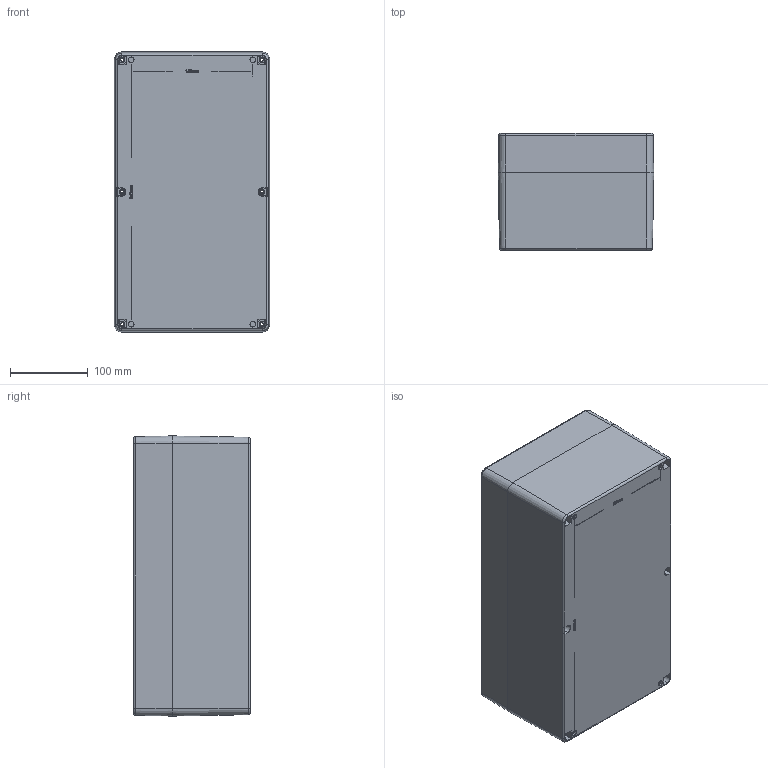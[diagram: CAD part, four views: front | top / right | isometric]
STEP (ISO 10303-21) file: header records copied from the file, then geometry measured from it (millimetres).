
FILE_DESCRIPTION (( 'STEP AP214' ), '1' );
FILE_NAME ('ZP 18 asm.STEP', '2014-10-27T11:26:33', ( '' ), ( '' ), 'SwSTEP 2.0', 'SolidWorks 2014', '' );
FILE_SCHEMA (( 'AUTOMOTIVE_DESIGN' ));
Length unit declared in the file: millimetre
Products named in the file (3): ZP 18 lid; ZP 18 Base; ZP 18 asm
Assembly tree (2 placements, depth 2):
  ZP 18 asm
    ZP 18 Base
    ZP 18 lid
Bounding box: 200 x 150.25 x 360 mm (x, y, z)
Volume: 1268884 mm3; surface area: 692554.3 mm2
Topology: 2 solids, 2 shells, 1270 faces, 3394 edges, 2156 vertices
Faces by surface type: plane 709, cone 334, cylinder 119, bspline 76, torus 20, sphere 12
Entity records: 43522 total; most frequent: CARTESIAN_POINT 12265, ORIENTED_EDGE 6644, DIRECTION 6234, EDGE_CURVE 3322, VERTEX_POINT 2156, VECTOR 2136, LINE 2136, AXIS2_PLACEMENT_3D 2049
